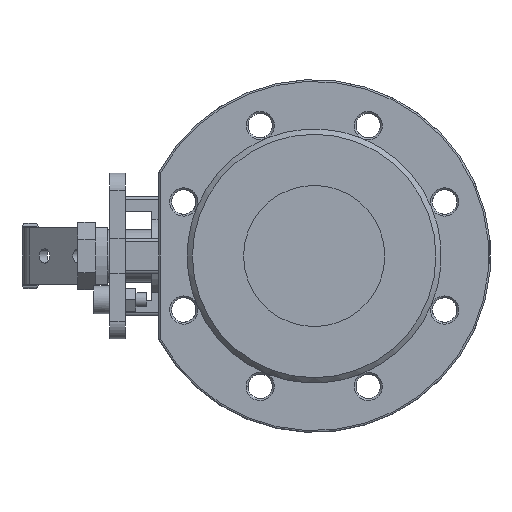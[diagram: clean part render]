
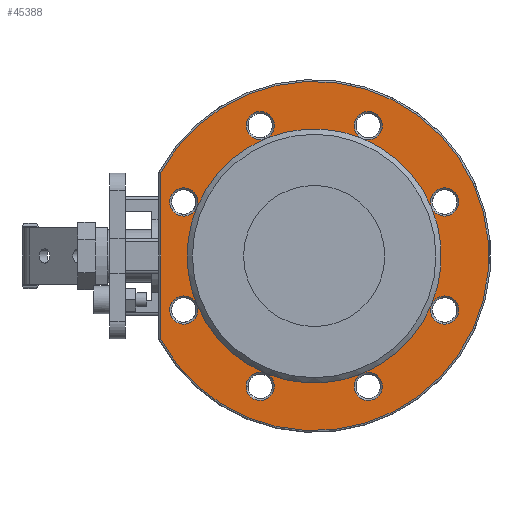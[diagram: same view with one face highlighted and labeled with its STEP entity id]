
A CAD part, left-side view. The second image highlights one B-rep face of the part: STEP entity #45388.
In plain terms, the highlighted planar face has unit normal (-1, 0, 0).
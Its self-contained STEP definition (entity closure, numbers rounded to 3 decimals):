
#42831=CARTESIAN_POINT('',(-57.0,66.519,-27.553));
#42832=VERTEX_POINT('',#42831);
#42833=CARTESIAN_POINT('',(-57.0,66.519,27.553));
#42834=VERTEX_POINT('',#42833);
#42835=CARTESIAN_POINT('',(-57.0,0.0,0.0));
#42836=DIRECTION('',(1.0,0.0,0.0));
#42837=DIRECTION('',(0.0,1.0,0.0));
#42838=AXIS2_PLACEMENT_3D('',#42835,#42836,#42837);
#42839=CIRCLE('',#42838,72.0);
#42840=EDGE_CURVE('',#42832,#42834,#42839,.T.);
#42842=CARTESIAN_POINT('',(-57.0,27.553,-66.519));
#42843=VERTEX_POINT('',#42842);
#42844=CARTESIAN_POINT('',(-57.0,0.0,0.0));
#42845=DIRECTION('',(1.0,0.0,0.0));
#42846=DIRECTION('',(0.0,1.0,0.0));
#42847=AXIS2_PLACEMENT_3D('',#42844,#42845,#42846);
#42848=CIRCLE('',#42847,72.0);
#42849=EDGE_CURVE('',#42843,#42832,#42848,.T.);
#42851=CARTESIAN_POINT('',(-57.0,-27.553,-66.519));
#42852=VERTEX_POINT('',#42851);
#42853=CARTESIAN_POINT('',(-57.0,0.0,0.0));
#42854=DIRECTION('',(1.0,0.0,0.0));
#42855=DIRECTION('',(0.0,1.0,0.0));
#42856=AXIS2_PLACEMENT_3D('',#42853,#42854,#42855);
#42857=CIRCLE('',#42856,72.0);
#42858=EDGE_CURVE('',#42852,#42843,#42857,.T.);
#42860=CARTESIAN_POINT('',(-57.0,-66.519,-27.553));
#42861=VERTEX_POINT('',#42860);
#42862=CARTESIAN_POINT('',(-57.0,0.0,0.0));
#42863=DIRECTION('',(1.0,0.0,0.0));
#42864=DIRECTION('',(0.0,1.0,0.0));
#42865=AXIS2_PLACEMENT_3D('',#42862,#42863,#42864);
#42866=CIRCLE('',#42865,72.0);
#42867=EDGE_CURVE('',#42861,#42852,#42866,.T.);
#42869=CARTESIAN_POINT('',(-57.0,-66.519,27.553));
#42870=VERTEX_POINT('',#42869);
#42871=CARTESIAN_POINT('',(-57.0,0.0,0.0));
#42872=DIRECTION('',(1.0,0.0,0.0));
#42873=DIRECTION('',(0.0,1.0,0.0));
#42874=AXIS2_PLACEMENT_3D('',#42871,#42872,#42873);
#42875=CIRCLE('',#42874,72.0);
#42876=EDGE_CURVE('',#42870,#42861,#42875,.T.);
#42878=CARTESIAN_POINT('',(-57.0,-27.553,66.519));
#42879=VERTEX_POINT('',#42878);
#42880=CARTESIAN_POINT('',(-57.0,0.0,0.0));
#42881=DIRECTION('',(1.0,0.0,0.0));
#42882=DIRECTION('',(0.0,1.0,0.0));
#42883=AXIS2_PLACEMENT_3D('',#42880,#42881,#42882);
#42884=CIRCLE('',#42883,72.0);
#42885=EDGE_CURVE('',#42879,#42870,#42884,.T.);
#42887=CARTESIAN_POINT('',(-57.0,27.553,66.519));
#42888=VERTEX_POINT('',#42887);
#42889=CARTESIAN_POINT('',(-57.0,0.0,0.0));
#42890=DIRECTION('',(1.0,0.0,0.0));
#42891=DIRECTION('',(0.0,1.0,0.0));
#42892=AXIS2_PLACEMENT_3D('',#42889,#42890,#42891);
#42893=CIRCLE('',#42892,72.0);
#42894=EDGE_CURVE('',#42888,#42879,#42893,.T.);
#42896=CARTESIAN_POINT('',(-57.0,0.0,0.0));
#42897=DIRECTION('',(1.0,0.0,0.0));
#42898=DIRECTION('',(0.0,1.0,0.0));
#42899=AXIS2_PLACEMENT_3D('',#42896,#42897,#42898);
#42900=CIRCLE('',#42899,72.0);
#42901=EDGE_CURVE('',#42834,#42888,#42900,.T.);
#44853=CARTESIAN_POINT('',(-57.0,87.,-47.244));
#44854=VERTEX_POINT('',#44853);
#44863=CARTESIAN_POINT('',(-57.0,87.,47.244));
#44864=VERTEX_POINT('',#44863);
#44872=CARTESIAN_POINT('',(-57.0,0.0,0.0));
#44873=DIRECTION('',(1.0,0.0,0.0));
#44874=DIRECTION('',(0.0,-1.0,0.0));
#44875=AXIS2_PLACEMENT_3D('',#44872,#44873,#44874);
#44876=CIRCLE('',#44875,99.0);
#44877=EDGE_CURVE('',#44864,#44854,#44876,.T.);
#45012=CARTESIAN_POINT('',(-57.0,87.,-47.244));
#45013=DIRECTION('',(0.0,0.0,1.0));
#45014=VECTOR('',#45013,94.488);
#45015=LINE('',#45012,#45014);
#45016=EDGE_CURVE('',#44854,#44864,#45015,.T.);
#45313=CARTESIAN_POINT('',(-57.0,86.0,0.0));
#45314=DIRECTION('',(-1.0,0.0,0.0));
#45315=DIRECTION('',(0.0,0.0,1.0));
#45316=AXIS2_PLACEMENT_3D('',#45313,#45314,#45315);
#45317=PLANE('',#45316);
#45318=ORIENTED_EDGE('',*,*,#45016,.F.);
#45319=ORIENTED_EDGE('',*,*,#44877,.F.);
#45320=EDGE_LOOP('',(#45318,#45319));
#45321=FACE_OUTER_BOUND('',#45320,.T.);
#45322=ORIENTED_EDGE('',*,*,#42840,.T.);
#45323=CARTESIAN_POINT('',(-57.0,73.91,30.615));
#45324=DIRECTION('',(1.0,0.0,0.0));
#45325=DIRECTION('',(0.0,0.0,1.0));
#45326=AXIS2_PLACEMENT_3D('',#45323,#45324,#45325);
#45327=CIRCLE('',#45326,8.);
#45328=EDGE_CURVE('',#42834,#42834,#45327,.T.);
#45329=ORIENTED_EDGE('',*,*,#45328,.T.);
#45330=ORIENTED_EDGE('',*,*,#42901,.T.);
#45331=CARTESIAN_POINT('',(-57.0,30.615,73.91));
#45332=DIRECTION('',(1.0,0.0,0.0));
#45333=DIRECTION('',(0.0,0.0,1.0));
#45334=AXIS2_PLACEMENT_3D('',#45331,#45332,#45333);
#45335=CIRCLE('',#45334,8.);
#45336=EDGE_CURVE('',#42888,#42888,#45335,.T.);
#45337=ORIENTED_EDGE('',*,*,#45336,.T.);
#45338=ORIENTED_EDGE('',*,*,#42894,.T.);
#45339=CARTESIAN_POINT('',(-57.0,-30.615,73.91));
#45340=DIRECTION('',(1.0,0.0,0.0));
#45341=DIRECTION('',(0.0,0.0,1.0));
#45342=AXIS2_PLACEMENT_3D('',#45339,#45340,#45341);
#45343=CIRCLE('',#45342,8.);
#45344=EDGE_CURVE('',#42879,#42879,#45343,.T.);
#45345=ORIENTED_EDGE('',*,*,#45344,.T.);
#45346=ORIENTED_EDGE('',*,*,#42885,.T.);
#45347=CARTESIAN_POINT('',(-57.0,-73.91,30.615));
#45348=DIRECTION('',(1.0,0.0,0.0));
#45349=DIRECTION('',(0.0,0.0,1.0));
#45350=AXIS2_PLACEMENT_3D('',#45347,#45348,#45349);
#45351=CIRCLE('',#45350,8.);
#45352=EDGE_CURVE('',#42870,#42870,#45351,.T.);
#45353=ORIENTED_EDGE('',*,*,#45352,.T.);
#45354=ORIENTED_EDGE('',*,*,#42876,.T.);
#45355=CARTESIAN_POINT('',(-57.0,-73.91,-30.615));
#45356=DIRECTION('',(1.0,0.0,0.0));
#45357=DIRECTION('',(0.0,0.0,1.0));
#45358=AXIS2_PLACEMENT_3D('',#45355,#45356,#45357);
#45359=CIRCLE('',#45358,8.);
#45360=EDGE_CURVE('',#42861,#42861,#45359,.T.);
#45361=ORIENTED_EDGE('',*,*,#45360,.T.);
#45362=ORIENTED_EDGE('',*,*,#42867,.T.);
#45363=CARTESIAN_POINT('',(-57.0,-30.615,-73.91));
#45364=DIRECTION('',(1.0,0.0,0.0));
#45365=DIRECTION('',(0.0,0.0,1.0));
#45366=AXIS2_PLACEMENT_3D('',#45363,#45364,#45365);
#45367=CIRCLE('',#45366,8.);
#45368=EDGE_CURVE('',#42852,#42852,#45367,.T.);
#45369=ORIENTED_EDGE('',*,*,#45368,.T.);
#45370=ORIENTED_EDGE('',*,*,#42858,.T.);
#45371=CARTESIAN_POINT('',(-57.0,30.615,-73.91));
#45372=DIRECTION('',(1.0,0.0,0.0));
#45373=DIRECTION('',(0.0,0.0,1.0));
#45374=AXIS2_PLACEMENT_3D('',#45371,#45372,#45373);
#45375=CIRCLE('',#45374,8.);
#45376=EDGE_CURVE('',#42843,#42843,#45375,.T.);
#45377=ORIENTED_EDGE('',*,*,#45376,.T.);
#45378=ORIENTED_EDGE('',*,*,#42849,.T.);
#45379=CARTESIAN_POINT('',(-57.0,73.91,-30.615));
#45380=DIRECTION('',(1.0,0.0,0.0));
#45381=DIRECTION('',(0.0,0.0,1.0));
#45382=AXIS2_PLACEMENT_3D('',#45379,#45380,#45381);
#45383=CIRCLE('',#45382,8.);
#45384=EDGE_CURVE('',#42832,#42832,#45383,.T.);
#45385=ORIENTED_EDGE('',*,*,#45384,.T.);
#45386=EDGE_LOOP('',(#45322,#45329,#45330,#45337,#45338,#45345,#45346,#45353,#45354,#45361,#45362,#45369,#45370,#45377,#45378,#45385));
#45387=FACE_BOUND('',#45386,.T.);
#45388=ADVANCED_FACE('',(#45321,#45387),#45317,.T.);
